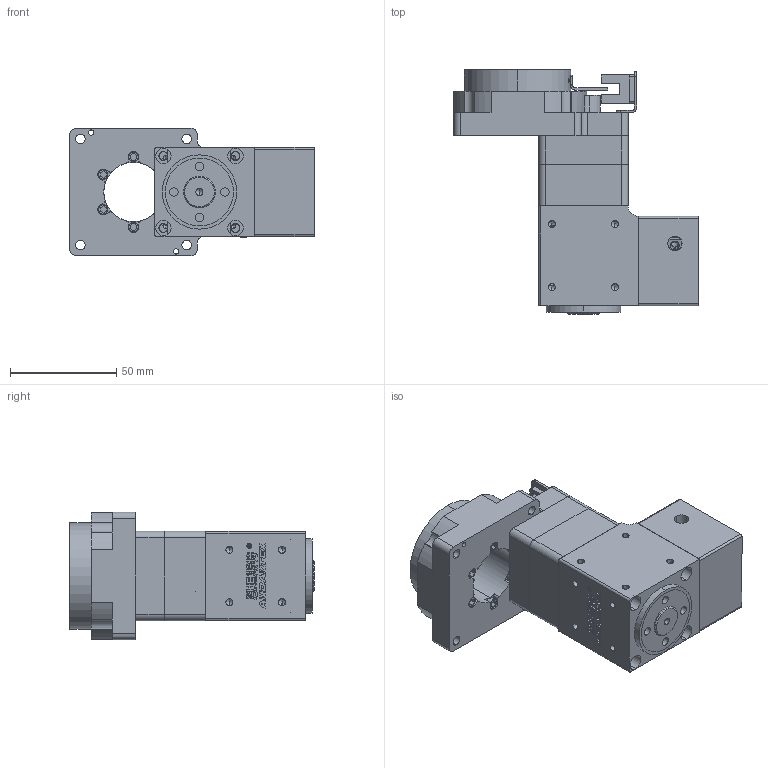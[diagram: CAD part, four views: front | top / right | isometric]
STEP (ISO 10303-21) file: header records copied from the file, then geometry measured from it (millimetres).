
FILE_DESCRIPTION(('Open CASCADE Model'),'2;1');
FILE_NAME('Open CASCADE Shape Model','2026-10-11T02:59:31',('Author'),( 'Open CASCADE'),'Open CASCADE STEP processor 7.8','Open CASCADE 7.8' ,'Unknown');
FILE_SCHEMA(('AUTOMOTIVE_DESIGN { 1 0 10303 214 1 1 1 1 }'));
Length unit declared in the file: millimetre
Products named in the file (4): NTF60-R-10-PVFD42-M1(配100W伺服 输入8-30-45-M3); NTF60-R-10-PVFD42-M1(配100W伺服 输入8-30-45-M3)-01; NTF60-R-10-PVFD42-M1(配100W伺服 输入8-30-45-M3)-02; NTF60-R-10-PVFD42-M1(配100W伺服 输入8-30-45-M3)-03
Assembly tree (3 placements, depth 2):
  NTF60-R-10-PVFD42-M1(配100W伺服 输入8-30-45-M3)
    NTF60-R-10-PVFD42-M1(配100W伺服 输入8-30-45-M3)-01
    NTF60-R-10-PVFD42-M1(配100W伺服 输入8-30-45-M3)-02
    NTF60-R-10-PVFD42-M1(配100W伺服 输入8-30-45-M3)-03
Bounding box: 115 x 115 x 60 mm (x, y, z)
Volume: 233927.9 mm3; surface area: 95414.2 mm2
Topology: 14 solids, 22 shells, 1779 faces, 5041 edges, 3274 vertices
Faces by surface type: plane 934, cylinder 460, bspline 275, cone 110
Entity records: 181460 total; most frequent: CARTESIAN_POINT 90351, DIRECTION 14607, ORIENTED_EDGE 9918, PCURVE 9918, DEFINITIONAL_REPRESENTATION 9918, LINE 8684, VECTOR 8684, EDGE_CURVE 4959
